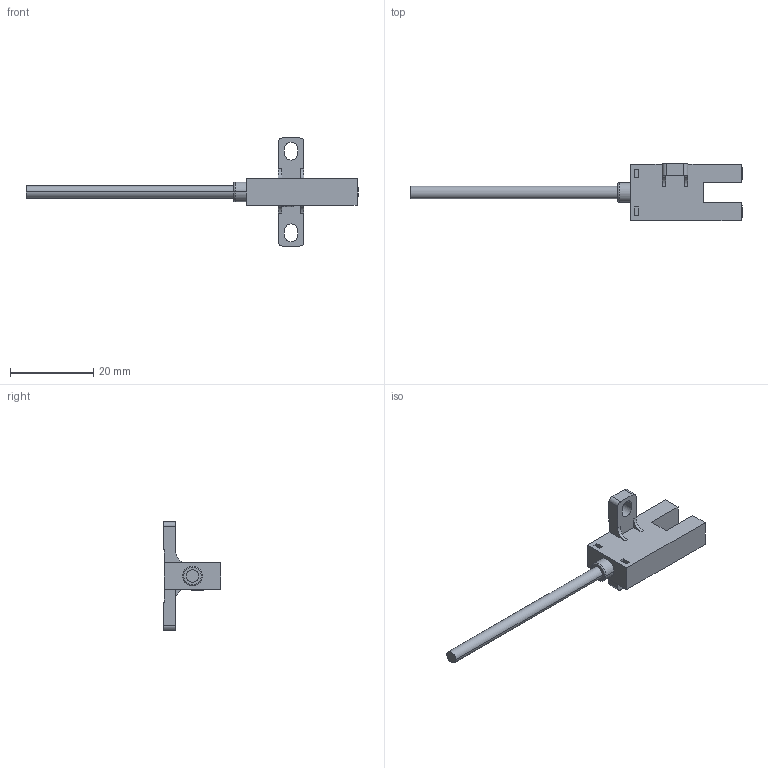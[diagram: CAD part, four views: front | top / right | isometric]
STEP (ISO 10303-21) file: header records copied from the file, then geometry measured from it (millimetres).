
FILE_DESCRIPTION (( 'STEP AP203' ), '1' );
FILE_NAME ('SX672A壳体（3）.STEP', '2018-06-07T09:58:42', ( '' ), ( '' ), 'SwSTEP 2.0', 'SolidWorks 2016', '' );
FILE_SCHEMA (( 'CONFIG_CONTROL_DESIGN' ));
Length unit declared in the file: millimetre
Products named in the file (1): SX672A褲极ㄗ3ㄘ
Bounding box: 79.9 x 13.75 x 26 mm (x, y, z)
Volume: 2687 mm3; surface area: 2231.7 mm2
Topology: 2 solids, 2 shells, 107 faces, 281 edges, 186 vertices
Faces by surface type: plane 83, cylinder 20, torus 4
Entity records: 3354 total; most frequent: CARTESIAN_POINT 575, ORIENTED_EDGE 562, DIRECTION 545, EDGE_CURVE 281, LINE 233, VECTOR 233, VERTEX_POINT 186, AXIS2_PLACEMENT_3D 156
